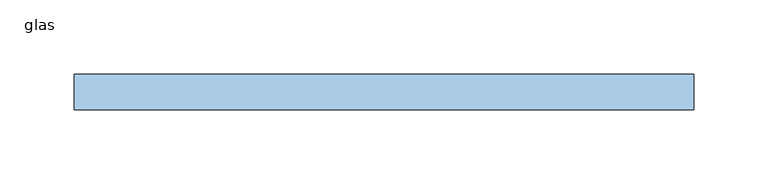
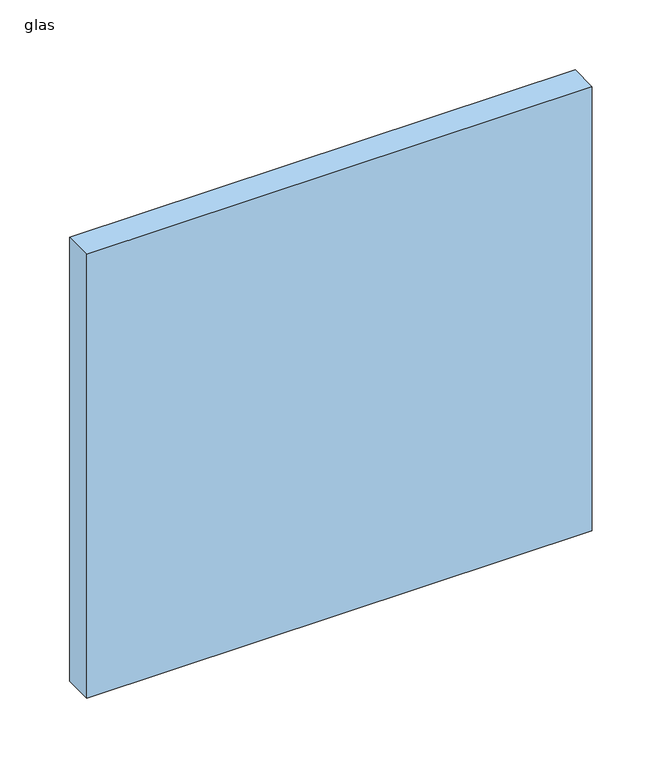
"""IFC4 building model written with IfcOpenShell, lengths in millimetres: window geometry, 300_31_ISR_vlakvulling : glas."""

from ifc_helpers import new_model, si_unit, origin, origin_with_axes, place, context, project, spatial, polyline, outline, extrude, source, transform, mapped, element, save


def glas_42e74a4b(model_context):
    return source(origin(), model_context, "Body", "SweptSolid", [
        extrude(outline(polyline([(-209.0, 20.3546226), (-209.0, 44.3546226), (209.0, 44.3546226), (209.0, 20.3546226), (-209.0, 20.3546226)])), origin_with_axes(), (0.0, 0.0, 1.0), 388.0),
    ])


if __name__ == "__main__":
    model = new_model("IFC4")
    model_context = context("Model", 3, world=origin())
    ifc_project = project(units=[si_unit("LENGTHUNIT", "METRE", prefix="MILLI")], contexts=[model_context])
    site = spatial("IfcSite", under=ifc_project)
    building = spatial("IfcBuilding", under=site)
    placement = place(None, origin())
    glas_shape = glas_42e74a4b(model_context)
    element("IfcWindow", 1, ObjectType="300_31_ISR_vlakvulling : glas", at=placement, inside=building, context=model_context, shape_type="MappedRepresentation", body=[
        mapped(glas_shape, transform((0.0, 0.0, 0.0), x_axis=(1.0, 0.0, 0.0), y_axis=(0.0, 1.0, 0.0), z_axis=(0.0, 0.0, 1.0))),
    ])
    save(model, "model.ifc")
